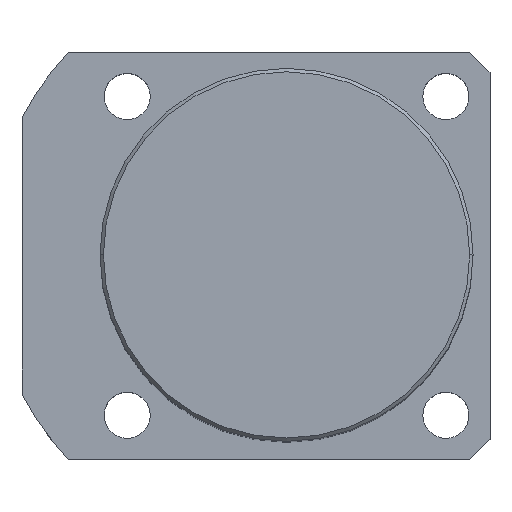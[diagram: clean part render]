
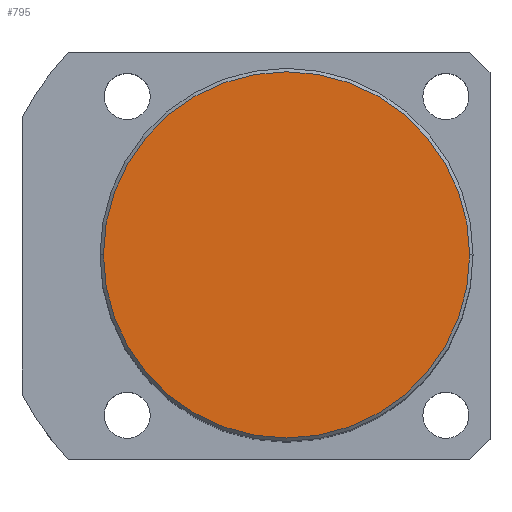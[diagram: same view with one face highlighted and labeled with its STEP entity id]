
A CAD part, top view. The second image highlights one B-rep face of the part: STEP entity #795.
In plain terms, the highlighted planar face has unit normal (0, 0, 1).
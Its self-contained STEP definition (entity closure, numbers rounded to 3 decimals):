
#93 = DIRECTION ( 'NONE',  ( 1., 0., 0. ) ) ;
#173 = CARTESIAN_POINT ( 'NONE',  ( 0., 0., 95. ) ) ;
#175 = CIRCLE ( 'NONE', #832, 27. ) ;
#181 = AXIS2_PLACEMENT_3D ( 'NONE', #173, #289, #986 ) ;
#289 = DIRECTION ( 'NONE',  ( 0., 0., 1. ) ) ;
#377 = VERTEX_POINT ( 'NONE', #1806 ) ;
#425 = ORIENTED_EDGE ( 'NONE', *, *, #1563, .T. ) ;
#457 = CIRCLE ( 'NONE', #701, 27. ) ;
#701 = AXIS2_PLACEMENT_3D ( 'NONE', #775, #1191, #93 ) ;
#726 = EDGE_LOOP ( 'NONE', ( #425, #1364 ) ) ;
#775 = CARTESIAN_POINT ( 'NONE',  ( 0., 0., 95. ) ) ;
#795 = ADVANCED_FACE ( 'NONE', ( #978 ), #1145, .T. ) ;
#832 = AXIS2_PLACEMENT_3D ( 'NONE', #1189, #1730, #1322 ) ;
#978 = FACE_OUTER_BOUND ( 'NONE', #726, .T. ) ;
#986 = DIRECTION ( 'NONE',  ( 1., 0., 0. ) ) ;
#1106 = VERTEX_POINT ( 'NONE', #1190 ) ;
#1145 = PLANE ( 'NONE',  #181 ) ;
#1189 = CARTESIAN_POINT ( 'NONE',  ( 0., 0., 95. ) ) ;
#1190 = CARTESIAN_POINT ( 'NONE',  ( -27., 0., 95. ) ) ;
#1191 = DIRECTION ( 'NONE',  ( 0., 0., 1. ) ) ;
#1322 = DIRECTION ( 'NONE',  ( 1., 0., 0. ) ) ;
#1364 = ORIENTED_EDGE ( 'NONE', *, *, #1503, .T. ) ;
#1503 = EDGE_CURVE ( 'NONE', #377, #1106, #175, .T. ) ;
#1563 = EDGE_CURVE ( 'NONE', #1106, #377, #457, .T. ) ;
#1730 = DIRECTION ( 'NONE',  ( 0., 0., 1. ) ) ;
#1806 = CARTESIAN_POINT ( 'NONE',  ( 27., 0., 95. ) ) ;
